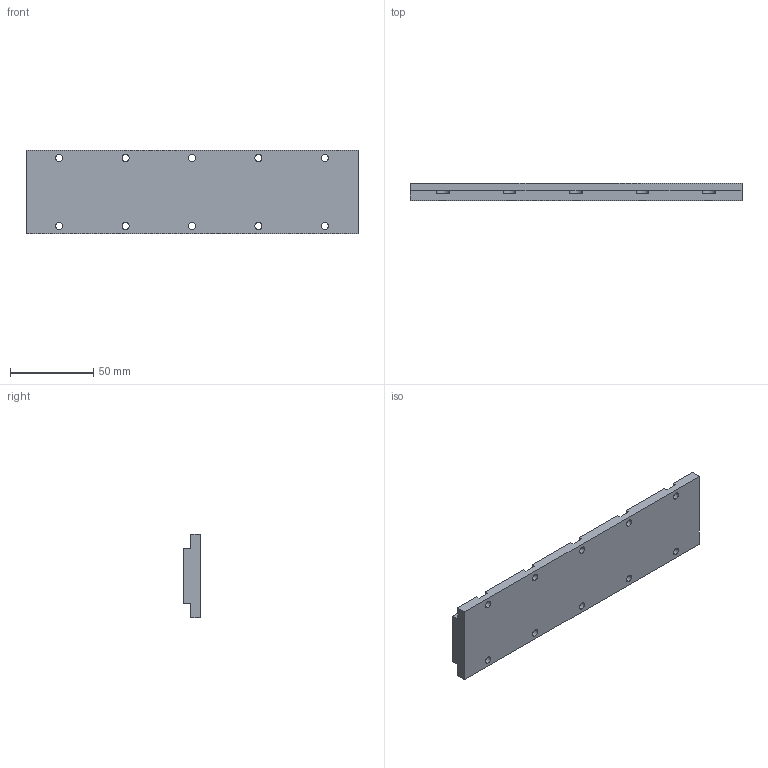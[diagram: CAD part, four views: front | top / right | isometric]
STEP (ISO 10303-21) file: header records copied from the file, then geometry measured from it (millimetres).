
FILE_DESCRIPTION (( 'STEP AP214' ), '1' );
FILE_NAME ('1-MJM030-L200.STEP', '2025-09-05T09:15:40', ( '' ), ( '' ), 'SwSTEP 2.0', 'SolidWorks 2016', '' );
FILE_SCHEMA (( 'AUTOMOTIVE_DESIGN' ));
Length unit declared in the file: millimetre
Products named in the file (1): 1-MJM030-L200
Bounding box: 200 x 10.3 x 50 mm (x, y, z)
Volume: 87026.3 mm3; surface area: 25522.8 mm2
Topology: 1 solids, 1 shells, 75 faces, 219 edges, 146 vertices
Faces by surface type: plane 40, cylinder 35
Entity records: 2577 total; most frequent: DIRECTION 441, CARTESIAN_POINT 441, ORIENTED_EDGE 438, EDGE_CURVE 219, VECTOR 149, LINE 149, AXIS2_PLACEMENT_3D 146, VERTEX_POINT 146
